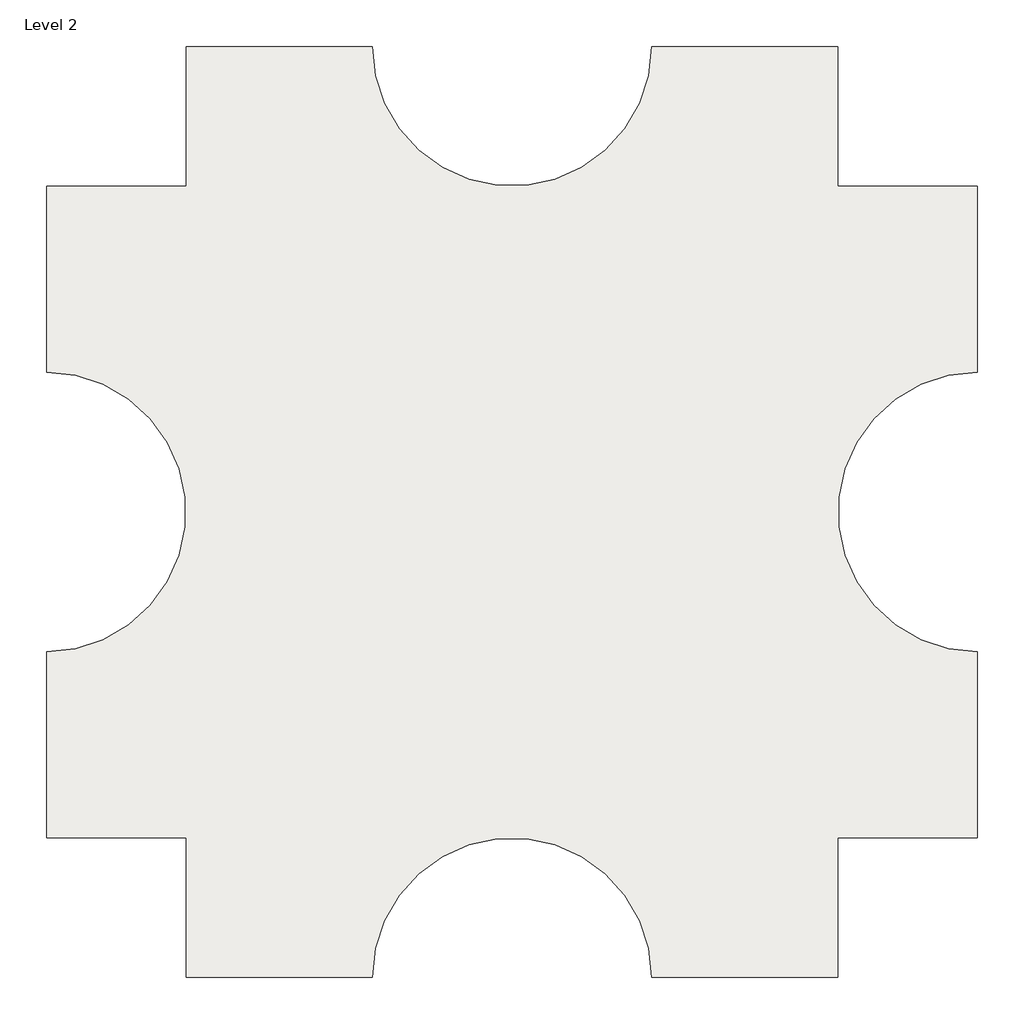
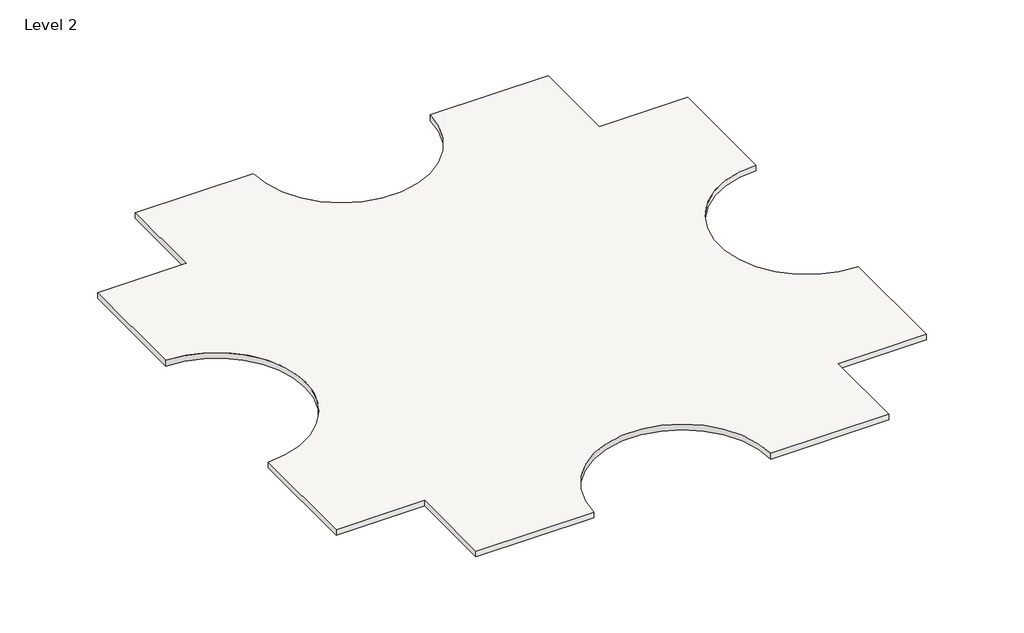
# One storey: 1 slab.
"""IFC4 building model written with IfcOpenShell, lengths in millimetres."""

import ifcopenshell
import ifcopenshell.guid

model = None  # the IFC model being written
_history = None  # IfcOwnerHistory: only IFC2X3 demands one
_inside = {}  # id of a spatial element -> (the spatial element, [elements in it])
_under = {}  # id of a project, library or spatial element -> (it, [spatial elements below it])
_declared = {}  # id of a project -> (the project, [libraries it declares])
_typed = {}  # id of a type object -> (the type object, [elements of that type])
_made_of = {}  # id of a material, layer set ... -> (it, [elements and type objects made of it])


def new_model(schema):
    """Start an empty IFC model of exactly this schema.

    Asked for "IFC4X3", IfcOpenShell would pick the latest addendum, in which some entities
    have other attributes; the version numbers below select the first issue.
    IFC2X3 requires an IfcOwnerHistory on every rooted entity: one is made here for all.
    """
    global model, _history
    if schema == "IFC4X3":
        model = ifcopenshell.file(schema_version=(4, 3, 0, 0))
    else:
        model = ifcopenshell.file(schema=schema)
    _inside.clear()
    _under.clear()
    _declared.clear()
    _typed.clear()
    _made_of.clear()
    _history = None
    if model.schema == "IFC2X3":
        org = make("IfcOrganization", Name="unknown")
        user = make(
            "IfcPersonAndOrganization",
            ThePerson=make("IfcPerson", FamilyName="unknown"),
            TheOrganization=org,
        )
        app = make(
            "IfcApplication",
            ApplicationDeveloper=org,
            Version="unknown",
            ApplicationFullName="unknown",
            ApplicationIdentifier="unknown",
        )
        _history = make(
            "IfcOwnerHistory",
            OwningUser=user,
            OwningApplication=app,
            ChangeAction="ADDED",
            CreationDate=0,
        )
    return model


def make(cls, **values):
    """One entity of the class cls with the attributes given. An attribute that is None is left unset."""
    return model.create_entity(
        cls, **{name: value for name, value in values.items() if value is not None}
    )


def rooted(cls, **values):
    """An entity with a GlobalId (a new one), such as an element, a storey or a relation."""
    return make(cls, GlobalId=ifcopenshell.guid.new(), OwnerHistory=_history, **values)


def si_unit(unit_type, name, prefix=None):
    """IfcSIUnit, for example si_unit("LENGTHUNIT", "METRE", prefix="MILLI")."""
    return make("IfcSIUnit", UnitType=unit_type, Prefix=prefix, Name=name)


def assignment(units):
    """IfcUnitAssignment: the units of a project."""
    return None if units is None else make("IfcUnitAssignment", Units=units)


def point(xyz):
    """IfcCartesianPoint."""
    return None if xyz is None else make("IfcCartesianPoint", Coordinates=xyz)


def direction(xyz):
    """IfcDirection."""
    return None if xyz is None else make("IfcDirection", DirectionRatios=xyz)


def frame(location, z_axis=None, x_axis=None):
    """IfcAxis2Placement3D, a coordinate frame: its origin and axes. An axis left out is left unset."""
    return make(
        "IfcAxis2Placement3D",
        Location=point(location),
        Axis=direction(z_axis),
        RefDirection=direction(x_axis),
    )


def frame_2d(location, x_axis=None):
    """IfcAxis2Placement2D, a coordinate frame in the plane: its origin and x axis."""
    return make(
        "IfcAxis2Placement2D", Location=point(location), RefDirection=direction(x_axis)
    )


def origin():
    """The frame at (0, 0, 0) with its axes left unset."""
    return frame((0.0, 0.0, 0.0))


def place(relative_to, where):
    """IfcLocalPlacement: puts the frame where relative to a parent placement (None: the world)."""
    return make(
        "IfcLocalPlacement", PlacementRelTo=relative_to, RelativePlacement=where
    )


def context(
    kind, dimensions, precision=None, world=None, true_north=None, identifier=None
):
    """IfcGeometricRepresentationContext, for example the 3D "Model" context."""
    return make(
        "IfcGeometricRepresentationContext",
        ContextIdentifier=identifier,
        ContextType=kind,
        CoordinateSpaceDimension=dimensions,
        Precision=precision,
        WorldCoordinateSystem=world,
        TrueNorth=true_north,
    )


def project(units=None, contexts=None):
    """IfcProject with its units and contexts."""
    return rooted(
        "IfcProject",
        Name="project",
        RepresentationContexts=contexts,
        UnitsInContext=assignment(units),
    )


def spatial(cls, under=None, at=None, **own):
    """A site, building, storey or space (cls), placed at a placement, below another one or the project."""
    s = rooted(cls, ObjectPlacement=at, **own)
    if under is not None:
        _under.setdefault(under.id(), (under, []))[1].append(s)
    return s


def polyline(points):
    """IfcPolyline through the points."""
    return make("IfcPolyline", Points=[point(p) for p in points])


def circle_curve(where, radius):
    """IfcCircle in the frame where."""
    return make("IfcCircle", Position=where, Radius=radius)


def trimmed(basis, trim1, trim2, sense, master):
    """IfcTrimmedCurve: the piece of a basis curve between two trims."""
    return make(
        "IfcTrimmedCurve",
        BasisCurve=basis,
        Trim1=trim1,
        Trim2=trim2,
        SenseAgreement=sense,
        MasterRepresentation=master,
    )


def segment(curve, same_sense, transition):
    """IfcCompositeCurveSegment."""
    return make(
        "IfcCompositeCurveSegment",
        Transition=transition,
        SameSense=same_sense,
        ParentCurve=curve,
    )


def composite_curve(segments, self_intersect=None):
    """IfcCompositeCurve: segments joined end to end."""
    return make("IfcCompositeCurve", Segments=segments, SelfIntersect=self_intersect)


def outline(outer, holes=None, kind="AREA"):
    """IfcArbitraryClosedProfileDef: a profile drawn as a closed curve; with holes, ...WithVoids."""
    if holes is None:
        return make("IfcArbitraryClosedProfileDef", ProfileType=kind, OuterCurve=outer)
    return make(
        "IfcArbitraryProfileDefWithVoids",
        ProfileType=kind,
        OuterCurve=outer,
        InnerCurves=holes,
    )


def extrude(swept, where, along, depth):
    """IfcExtrudedAreaSolid: the profile swept, set in the frame where, extruded along a direction by depth."""
    return make(
        "IfcExtrudedAreaSolid",
        SweptArea=swept,
        Position=where,
        ExtrudedDirection=direction(along),
        Depth=depth,
    )


def shape(context_of_items, identifier, shape_type, items):
    """IfcShapeRepresentation: the items that make up one representation, for example the "Body"."""
    return make(
        "IfcShapeRepresentation",
        ContextOfItems=context_of_items,
        RepresentationIdentifier=identifier,
        RepresentationType=shape_type,
        Items=items,
    )


def made_of(thing, what):
    """Note that an element or type object is made of a material, layer set ...; save() writes the relation."""
    if what is not None:
        _made_of.setdefault(what.id(), (what, []))[1].append(thing)
    return thing


def element(
    cls,
    number,
    at=None,
    inside=None,
    cuts=None,
    type_object=None,
    material=None,
    context=None,
    identifier="Body",
    shape_type=None,
    held_by="IfcProductDefinitionShape",
    body=None,
    shapes=None,
    **own,
):
    """One element of the class cls, such as IfcWall. Its Tag is "e" and its number.

    at: its placement. inside: the storey or other place that contains it. cuts: it is an
    opening in that element (IfcRelVoidsElement). A single representation is given by context,
    identifier, shape_type and body (its items); several are given by shapes. held_by: the class
    of the entity that holds the representations. save() writes the other relations.
    """
    e = rooted(cls, Tag="e%d" % number, ObjectPlacement=at, **own)
    if body is not None:
        shapes = [shape(context, identifier, shape_type, body)]
    if shapes is not None:
        e.Representation = make(held_by, Representations=shapes)
    if inside is not None:
        _inside.setdefault(inside.id(), (inside, []))[1].append(e)
    if cuts is not None:
        rooted(
            "IfcRelVoidsElement", RelatingBuildingElement=cuts, RelatedOpeningElement=e
        )
    if type_object is not None:
        _typed.setdefault(type_object.id(), (type_object, []))[1].append(e)
    return made_of(e, material)


def aggregate(whole, parts):
    """IfcRelAggregates: a whole, such as a stair, and the parts it consists of."""
    return rooted("IfcRelAggregates", RelatingObject=whole, RelatedObjects=parts)


def save(model, path):
    """Write the relations noted so far, then the file.

    IfcRelAggregates (storeys below a building ...), IfcRelContainedInSpatialStructure (elements
    in a storey), IfcRelDefinesByType, IfcRelAssociatesMaterial and IfcRelDeclares: one each for
    every whole, place, type object, material and project.
    """
    for whole, parts in _under.values():
        aggregate(whole, parts)
    for where, things in _inside.values():
        rooted(
            "IfcRelContainedInSpatialStructure",
            RelatedElements=things,
            RelatingStructure=where,
        )
    for kind, things in _typed.values():
        rooted("IfcRelDefinesByType", RelatedObjects=things, RelatingType=kind)
    for what, things in _made_of.values():
        rooted("IfcRelAssociatesMaterial", RelatedObjects=things, RelatingMaterial=what)
    for by, libraries in _declared.values():
        rooted("IfcRelDeclares", RelatingContext=by, RelatedDefinitions=libraries)
    model.write(path)


model = new_model("IFC4")

# Units and contexts
model_context = context("Model", 3, world=origin())
ifc_project = project(units=[si_unit("LENGTHUNIT", "METRE", prefix="MILLI")], contexts=[model_context])

# Site, building, storey
site = spatial("IfcSite", under=ifc_project)
building = spatial("IfcBuilding", under=site)
storey = spatial("IfcBuildingStorey", under=building, Name="Level 2", Elevation=3048.0)

# Slab
placement = place(None, origin())
element("IfcSlab", 1, ObjectType="Generic - 12\"", at=placement, inside=storey, context=model_context, shape_type="SweptSolid", body=[
    extrude(outline(composite_curve([segment(polyline([(-7150.3629456, 4479.6634547), (-7150.3629456, 9051.6634547), (-1054.3629456, 9051.6634547)]), True, "CONTINUOUS"), segment(trimmed(circle_curve(frame_2d((3517.6370544, 9051.6634547)), 4572.0), [point((-1054.3629456, 9051.6634547))], [point((8089.6370544, 9051.6634547))], True, "CARTESIAN"), True, "CONTINUOUS"), segment(polyline([(8089.6370544, 9051.6634547), (14185.6370544, 9051.6634547), (14185.6370544, 4479.6634547), (18757.6370544, 4479.6634547), (18757.6370544, -1616.3365453)]), True, "CONTINUOUS"), segment(trimmed(circle_curve(frame_2d((18757.6370544, -6188.3365453)), 4572.0), [point((18757.6370544, -1616.3365453))], [point((18757.6370544, -10760.3365453))], True, "CARTESIAN"), True, "CONTINUOUS"), segment(polyline([(18757.6370544, -10760.3365453), (18757.6370544, -16856.3365453), (14185.6370544, -16856.3365453), (14185.6370544, -21428.3365453), (8089.6370544, -21428.3365453)]), True, "CONTINUOUS"), segment(trimmed(circle_curve(frame_2d((3517.6370544, -21428.3365453)), 4572.0), [point((8089.6370544, -21428.3365453))], [point((-1054.3629456, -21428.3365453))], True, "CARTESIAN"), True, "CONTINUOUS"), segment(polyline([(-1054.3629456, -21428.3365453), (-7150.3629456, -21428.3365453), (-7150.3629456, -16856.3365453), (-11722.3629456, -16856.3365453), (-11722.3629456, -10760.3365453)]), True, "CONTINUOUS"), segment(trimmed(circle_curve(frame_2d((-11722.3629456, -6188.3365453)), 4572.0), [point((-11722.3629456, -10760.3365453))], [point((-11722.3629456, -1616.3365453))], True, "CARTESIAN"), True, "CONTINUOUS"), segment(polyline([(-11722.3629456, -1616.3365453), (-11722.3629456, 4479.6634547), (-7150.3629456, 4479.6634547)]), True, "CONTINUOUS")], self_intersect=False)), frame((0.0, 0.0, 2743.2), z_axis=(0.0, 0.0, 1.0), x_axis=(1.0, 0.0, 0.0)), (0.0, 0.0, 1.0), 304.8),
])

save(model, "model.ifc")
